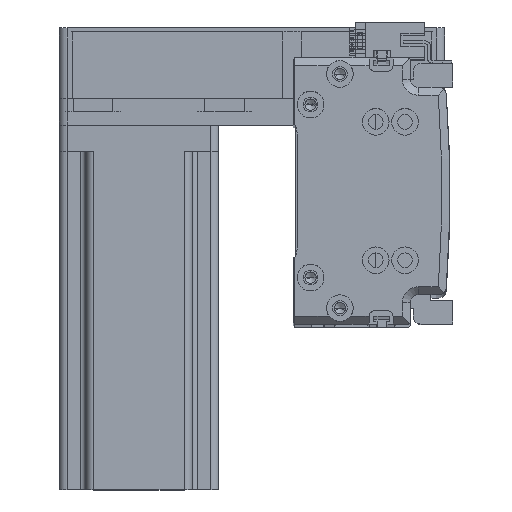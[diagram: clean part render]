
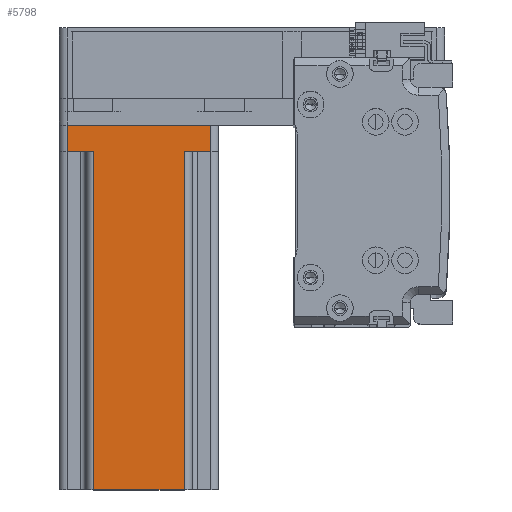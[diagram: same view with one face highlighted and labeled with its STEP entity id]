
A CAD part, top view. The second image highlights one B-rep face of the part: STEP entity #5798.
In plain terms, the highlighted planar face has unit normal (0, 0, 1) as drawn and (0, -1, 0) by its records, which use the part's own axes.
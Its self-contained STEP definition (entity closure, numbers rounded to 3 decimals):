
#753 = EDGE_CURVE ( 'NONE', #8936, #14227, #17444, .T. ) ;
#1412 = VECTOR ( 'NONE', #1930, 1000. ) ;
#1466 = CARTESIAN_POINT ( 'NONE',  ( 27., -30., 10. ) ) ;
#1930 = DIRECTION ( 'NONE',  ( 1., 0., 0. ) ) ;
#2092 = CARTESIAN_POINT ( 'NONE',  ( 30., -30., 0. ) ) ;
#2613 = EDGE_LOOP ( 'NONE', ( #16338, #7710, #48305, #40714, #37368, #2866, #46844, #37172 ) ) ;
#2866 = ORIENTED_EDGE ( 'NONE', *, *, #753, .T. ) ;
#3008 = DIRECTION ( 'NONE',  ( 0., 1., 0. ) ) ;
#3966 = DIRECTION ( 'NONE',  ( 1., 0., 0. ) ) ;
#4106 = VERTEX_POINT ( 'NONE', #47676 ) ;
#5798 = ADVANCED_FACE ( 'NONE', ( #38943 ), #25359, .F. ) ;
#6740 = CARTESIAN_POINT ( 'NONE',  ( -27., -30., 0. ) ) ;
#7057 = CARTESIAN_POINT ( 'NONE',  ( 20., -30., 10. ) ) ;
#7710 = ORIENTED_EDGE ( 'NONE', *, *, #29732, .T. ) ;
#7751 = CARTESIAN_POINT ( 'NONE',  ( -20., -30., 10. ) ) ;
#8243 = CARTESIAN_POINT ( 'NONE',  ( 17., -30., 137. ) ) ;
#8936 = VERTEX_POINT ( 'NONE', #38067 ) ;
#9273 = LINE ( 'NONE', #29656, #48169 ) ;
#11303 = CARTESIAN_POINT ( 'NONE',  ( 17., -30., 137. ) ) ;
#11593 = VERTEX_POINT ( 'NONE', #14635 ) ;
#13139 = DIRECTION ( 'NONE',  ( 0., 0., 1. ) ) ;
#14227 = VERTEX_POINT ( 'NONE', #1466 ) ;
#14635 = CARTESIAN_POINT ( 'NONE',  ( -17., -30., 137. ) ) ;
#15842 = CARTESIAN_POINT ( 'NONE',  ( -27., -30., 137. ) ) ;
#16133 = CARTESIAN_POINT ( 'NONE',  ( -27., -30., 10. ) ) ;
#16338 = ORIENTED_EDGE ( 'NONE', *, *, #44209, .F. ) ;
#17444 = LINE ( 'NONE', #32061, #36340 ) ;
#17569 = AXIS2_PLACEMENT_3D ( 'NONE', #25520, #3008, #29301 ) ;
#20726 = VECTOR ( 'NONE', #40941, 1000. ) ;
#21897 = VERTEX_POINT ( 'NONE', #6740 ) ;
#22462 = VECTOR ( 'NONE', #37671, 1000. ) ;
#22687 = VERTEX_POINT ( 'NONE', #16133 ) ;
#22823 = VECTOR ( 'NONE', #39094, 1000. ) ;
#23511 = EDGE_CURVE ( 'NONE', #14227, #4106, #31946, .T. ) ;
#23572 = EDGE_CURVE ( 'NONE', #4106, #38318, #42560, .T. ) ;
#23820 = VECTOR ( 'NONE', #3966, 1000. ) ;
#23902 = CARTESIAN_POINT ( 'NONE',  ( 30., -30., 137. ) ) ;
#25359 = PLANE ( 'NONE',  #17569 ) ;
#25520 = CARTESIAN_POINT ( 'NONE',  ( 30., -30., 137. ) ) ;
#29301 = DIRECTION ( 'NONE',  ( -1., 0., 0. ) ) ;
#29656 = CARTESIAN_POINT ( 'NONE',  ( -17., -30., 137. ) ) ;
#29732 = EDGE_CURVE ( 'NONE', #11593, #39241, #9273, .T. ) ;
#30647 = CARTESIAN_POINT ( 'NONE',  ( -17., -30., 10. ) ) ;
#31413 = LINE ( 'NONE', #2092, #1412 ) ;
#31946 = LINE ( 'NONE', #7057, #20726 ) ;
#32061 = CARTESIAN_POINT ( 'NONE',  ( 27., -30., 137. ) ) ;
#32840 = VECTOR ( 'NONE', #42240, 1000. ) ;
#32868 = LINE ( 'NONE', #23902, #22823 ) ;
#33136 = EDGE_CURVE ( 'NONE', #21897, #8936, #31413, .T. ) ;
#36340 = VECTOR ( 'NONE', #13139, 1000. ) ;
#37172 = ORIENTED_EDGE ( 'NONE', *, *, #23572, .T. ) ;
#37264 = DIRECTION ( 'NONE',  ( 0., 0., -1. ) ) ;
#37368 = ORIENTED_EDGE ( 'NONE', *, *, #33136, .T. ) ;
#37671 = DIRECTION ( 'NONE',  ( 0., 0., 1. ) ) ;
#38067 = CARTESIAN_POINT ( 'NONE',  ( 27., -30., 0. ) ) ;
#38318 = VERTEX_POINT ( 'NONE', #8243 ) ;
#38943 = FACE_OUTER_BOUND ( 'NONE', #2613, .T. ) ;
#39094 = DIRECTION ( 'NONE',  ( 1., 0., 0. ) ) ;
#39241 = VERTEX_POINT ( 'NONE', #30647 ) ;
#40714 = ORIENTED_EDGE ( 'NONE', *, *, #47061, .T. ) ;
#40941 = DIRECTION ( 'NONE',  ( -1., 0., 0. ) ) ;
#42240 = DIRECTION ( 'NONE',  ( 0., 0., -1. ) ) ;
#42560 = LINE ( 'NONE', #11303, #22462 ) ;
#42882 = LINE ( 'NONE', #15842, #32840 ) ;
#43873 = LINE ( 'NONE', #7751, #23820 ) ;
#44209 = EDGE_CURVE ( 'NONE', #11593, #38318, #32868, .T. ) ;
#46844 = ORIENTED_EDGE ( 'NONE', *, *, #23511, .T. ) ;
#47061 = EDGE_CURVE ( 'NONE', #22687, #21897, #42882, .T. ) ;
#47676 = CARTESIAN_POINT ( 'NONE',  ( 17., -30., 10. ) ) ;
#48169 = VECTOR ( 'NONE', #37264, 1000. ) ;
#48218 = EDGE_CURVE ( 'NONE', #22687, #39241, #43873, .T. ) ;
#48305 = ORIENTED_EDGE ( 'NONE', *, *, #48218, .F. ) ;
